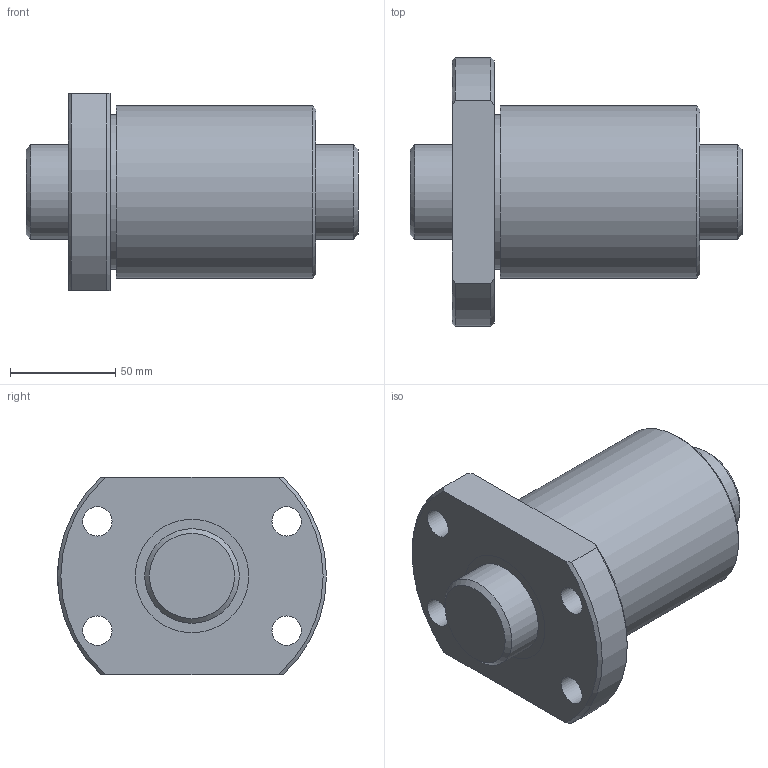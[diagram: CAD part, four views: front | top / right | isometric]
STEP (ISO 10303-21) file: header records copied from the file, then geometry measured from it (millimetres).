
FILE_DESCRIPTION(/* description */ ('STEP AP203'),/* implementation_level */ '2;1');
FILE_NAME(/* name */ 'BTK4512V-5.3ZZ+158LC7T_000',/* time_stamp */ '2025-01-16T07:58:48+01:00',/* author */ ('License CC BY-ND 4.0'),/* organization */ ('CADENAS'),/* preprocessor_version */ 'ST-DEVELOPER v19.3',/* originating_system */ 'PARTsolutions',/* authorisation */ ' ');
FILE_SCHEMA (('CONFIG_CONTROL_DESIGN'));
Length unit declared in the file: millimetre
Products named in the file (3): BTK4512V-5.3ZZ+158LC7T_000; BTK 4512V-5.300 Shaft; BTK 4512V-5.3ZZ Nut
Assembly tree (2 placements, depth 2):
  BTK4512V-5.3ZZ+158LC7T_000
    BTK 4512V-5.300 Shaft
    BTK 4512V-5.3ZZ Nut
Bounding box: 158 x 128 x 94 mm (x, y, z)
Volume: 780188.4 mm3; surface area: 97413.6 mm2
Topology: 2 solids, 2 shells, 31 faces, 66 edges, 43 vertices
Faces by surface type: cylinder 13, plane 10, cone 8
Full cylindrical faces by diameter (mm): 4.917 x1, 14 x4, 45 x2, 54 x2, 73.8 x1, 82 x1
Entity records: 887 total; most frequent: CARTESIAN_POINT 170, DIRECTION 140, ORIENTED_EDGE 100, AXIS2_PLACEMENT_3D 66, EDGE_LOOP 62, FACE_BOUND 62, EDGE_CURVE 50, VERTEX_POINT 42
